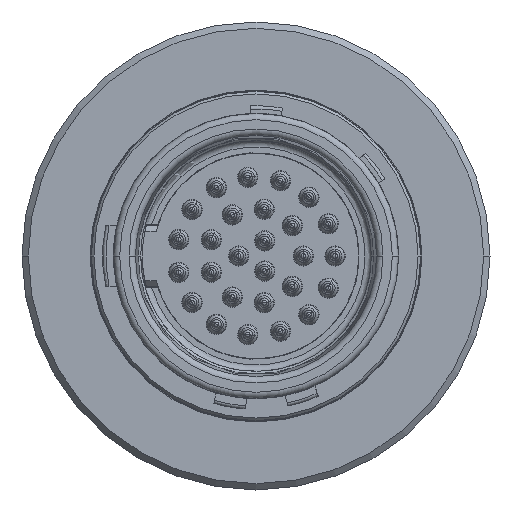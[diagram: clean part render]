
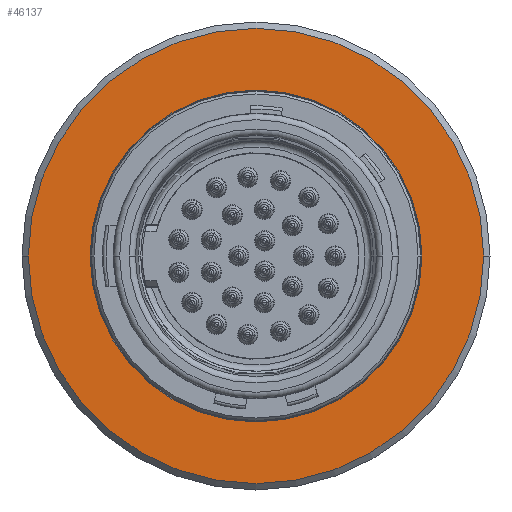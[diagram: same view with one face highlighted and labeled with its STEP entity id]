
A CAD part, left-side view. The second image highlights one B-rep face of the part: STEP entity #46137.
In plain terms, the highlighted planar face has unit normal (-1, 0, 0).
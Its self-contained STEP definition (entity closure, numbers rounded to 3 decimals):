
#11697=CARTESIAN_POINT('',(-5.7,0.,0.));
#11698=DIRECTION('',(-1.,0.,0.));
#11699=DIRECTION('',(0.,1.,0.));
#11700=AXIS2_PLACEMENT_3D('',#11697,#11698,#11699);
#11710=CARTESIAN_POINT('',(-5.7,0.,0.));
#11711=DIRECTION('',(1.,0.,0.));
#11712=DIRECTION('',(0.,1.,0.));
#11713=AXIS2_PLACEMENT_3D('',#11710,#11711,#11712);
#11715=CARTESIAN_POINT('',(-5.7,0.,0.));
#11716=DIRECTION('',(-1.,0.,0.));
#11717=DIRECTION('',(0.,1.,0.));
#11718=AXIS2_PLACEMENT_3D('',#11715,#11716,#11717);
#11724=CARTESIAN_POINT('',(-5.7,0.,0.));
#11725=DIRECTION('',(1.,0.,0.));
#11726=DIRECTION('',(0.,1.,0.));
#11727=AXIS2_PLACEMENT_3D('',#11724,#11725,#11726);
#29547=CARTESIAN_POINT('',(-5.7,7.2,0.));
#29548=VERTEX_POINT('',#29547);
#29549=CARTESIAN_POINT('',(-5.7,-7.2,0.));
#29550=VERTEX_POINT('',#29549);
#29693=CARTESIAN_POINT('',(-5.7,5.141,0.));
#29695=VERTEX_POINT('',#29693);
#29699=CARTESIAN_POINT('',(-5.7,-5.141,0.));
#29701=VERTEX_POINT('',#29699);
#46122=CARTESIAN_POINT('',(-5.7,0.,0.));
#46123=DIRECTION('',(-1.,0.,0.));
#46124=DIRECTION('',(0.,-1.,0.));
#46125=AXIS2_PLACEMENT_3D('',#46122,#46123,#46124);
#46126=PLANE('',#46125);
#46127=ORIENTED_EDGE('',*,*,#46087,.F.);
#46128=ORIENTED_EDGE('',*,*,#46110,.T.);
#46129=EDGE_LOOP('',(#46127,#46128));
#46130=FACE_OUTER_BOUND('',#46129,.F.);
#46132=ORIENTED_EDGE('',*,*,#46131,.T.);
#46134=ORIENTED_EDGE('',*,*,#46133,.F.);
#46135=EDGE_LOOP('',(#46132,#46134));
#46136=FACE_BOUND('',#46135,.F.);
#11701=CIRCLE('',#11700,7.2);
#11714=CIRCLE('',#11713,7.2);
#11719=CIRCLE('',#11718,5.141);
#11728=CIRCLE('',#11727,5.141);
#46087=EDGE_CURVE('',#29548,#29550,#11701,.T.);
#46110=EDGE_CURVE('',#29548,#29550,#11714,.T.);
#46131=EDGE_CURVE('',#29695,#29701,#11719,.T.);
#46133=EDGE_CURVE('',#29695,#29701,#11728,.T.);
#46137=ADVANCED_FACE('',(#46130,#46136),#46126,.T.);
